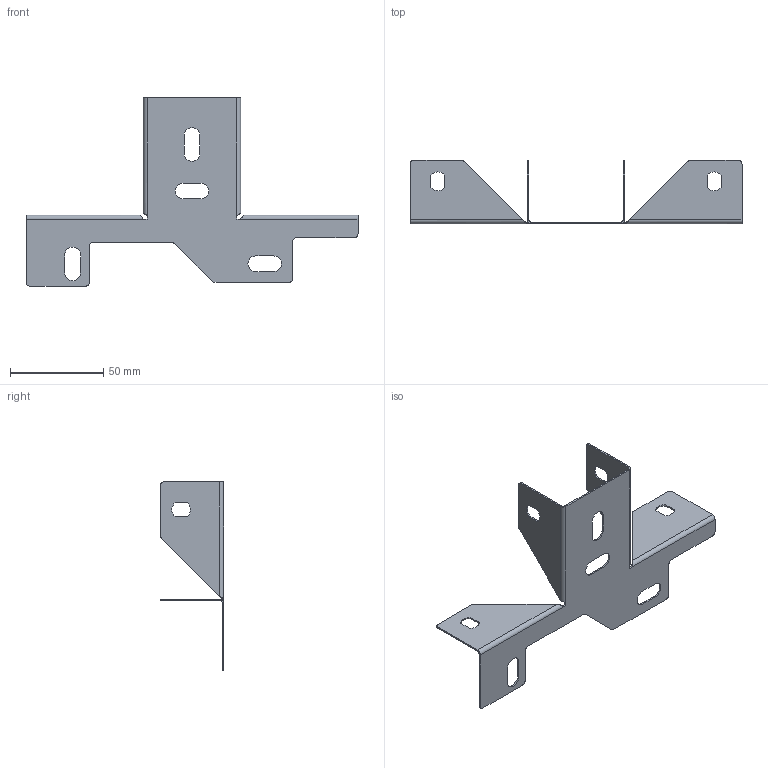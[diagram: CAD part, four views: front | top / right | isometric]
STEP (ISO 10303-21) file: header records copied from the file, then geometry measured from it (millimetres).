
FILE_DESCRIPTION (( 'STEP AP203' ), '1' );
FILE_NAME ('ASER50.STEP', '2024-10-21T13:52:10', ( '' ), ( '' ), 'SwSTEP 2.0', 'SolidWorks 2022', '' );
FILE_SCHEMA (( 'CONFIG_CONTROL_DESIGN' ));
Length unit declared in the file: millimetre
Products named in the file (1): ASER50
Bounding box: 178 x 34 x 101 mm (x, y, z)
Volume: 10232.7 mm3; surface area: 26445.4 mm2
Topology: 1 solids, 1 shells, 104 faces, 274 edges, 172 vertices
Faces by surface type: plane 56, cylinder 44, bspline 4
Entity records: 3409 total; most frequent: CARTESIAN_POINT 713, ORIENTED_EDGE 548, DIRECTION 540, EDGE_CURVE 274, AXIS2_PLACEMENT_3D 181, LINE 178, VECTOR 178, VERTEX_POINT 172
